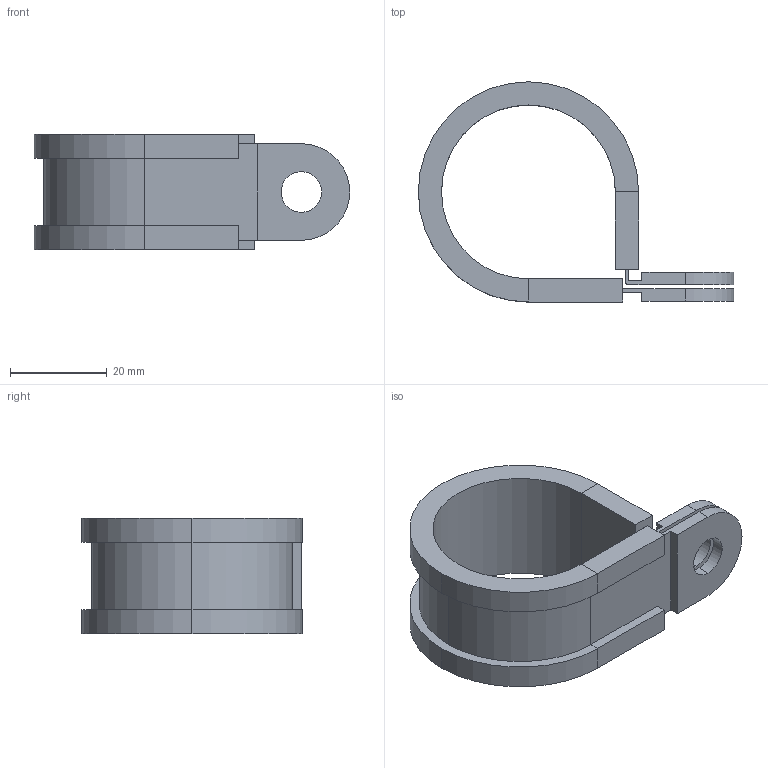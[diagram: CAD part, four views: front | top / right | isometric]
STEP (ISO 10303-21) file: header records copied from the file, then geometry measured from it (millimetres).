
FILE_DESCRIPTION (( 'STEP AP203' ), '1' );
FILE_NAME ('3D-R396-40_173763420.STEP', '2024-08-29T14:48:57', ( '' ), ( '' ), 'SwSTEP 2.0', 'SolidWorks 2024', '' );
FILE_SCHEMA (( 'CONFIG_CONTROL_DESIGN' ));
Length unit declared in the file: millimetre
Products named in the file (1): 3D-R396-40_173763420
Bounding box: 65.3 x 45.6 x 24 mm (x, y, z)
Volume: 12915.1 mm3; surface area: 10144.8 mm2
Topology: 1 solids, 1 shells, 49 faces, 125 edges, 78 vertices
Faces by surface type: plane 34, cylinder 15
Entity records: 1546 total; most frequent: DIRECTION 255, CARTESIAN_POINT 253, ORIENTED_EDGE 250, EDGE_CURVE 125, VECTOR 95, LINE 95, AXIS2_PLACEMENT_3D 80, VERTEX_POINT 78
